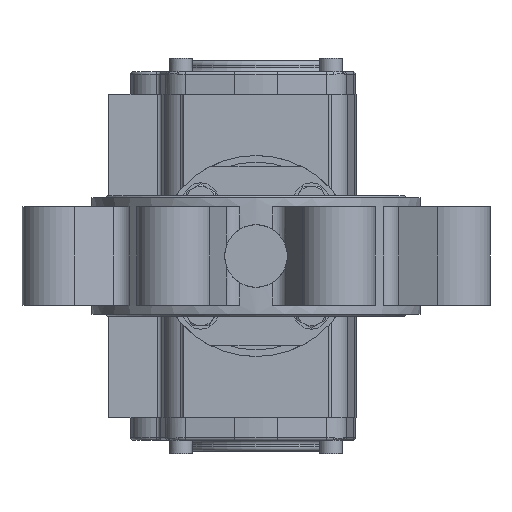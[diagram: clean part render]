
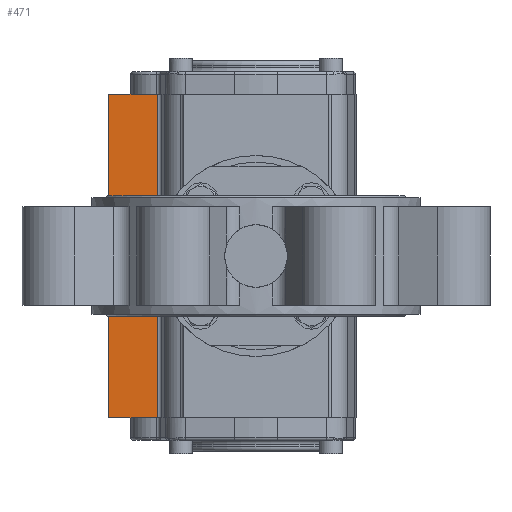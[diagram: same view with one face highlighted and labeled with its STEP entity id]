
A CAD part, front view. The second image highlights one B-rep face of the part: STEP entity #471.
In plain terms, the highlighted planar face has unit normal (0, -1, 0).
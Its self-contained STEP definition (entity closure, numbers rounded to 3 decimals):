
#471 = ADVANCED_FACE ( 'NONE', ( #4277 ), #26794, .F. ) ;
#473 = CARTESIAN_POINT ( 'NONE',  ( 72.45, -22., 66. ) ) ;
#788 = VERTEX_POINT ( 'NONE', #2328 ) ;
#2152 = EDGE_CURVE ( 'NONE', #788, #14917, #26124, .T. ) ;
#2328 = CARTESIAN_POINT ( 'NONE',  ( -72.45, -22., 66. ) ) ;
#3155 = VECTOR ( 'NONE', #6079, 1000. ) ;
#3376 = CARTESIAN_POINT ( 'NONE',  ( 72.45, -22., 66. ) ) ;
#4277 = FACE_OUTER_BOUND ( 'NONE', #4403, .T. ) ;
#4403 = EDGE_LOOP ( 'NONE', ( #26475, #16360, #6614, #22044 ) ) ;
#4834 = VERTEX_POINT ( 'NONE', #3376 ) ;
#5110 = EDGE_CURVE ( 'NONE', #14917, #13661, #7854, .T. ) ;
#6079 = DIRECTION ( 'NONE',  ( 0., 0., -1. ) ) ;
#6294 = DIRECTION ( 'NONE',  ( 0., 0., -1. ) ) ;
#6614 = ORIENTED_EDGE ( 'NONE', *, *, #12712, .F. ) ;
#7854 = LINE ( 'NONE', #14576, #23213 ) ;
#8497 = CARTESIAN_POINT ( 'NONE',  ( 72.45, -22., 66. ) ) ;
#11396 = DIRECTION ( 'NONE',  ( -1., 0., 0. ) ) ;
#12701 = CARTESIAN_POINT ( 'NONE',  ( 72.45, -22., 44.111 ) ) ;
#12712 = EDGE_CURVE ( 'NONE', #4834, #13661, #14919, .T. ) ;
#12855 = CARTESIAN_POINT ( 'NONE',  ( 72.45, -22., 66. ) ) ;
#13300 = DIRECTION ( 'NONE',  ( 0., 1., 0. ) ) ;
#13597 = LINE ( 'NONE', #473, #23933 ) ;
#13661 = VERTEX_POINT ( 'NONE', #12701 ) ;
#14576 = CARTESIAN_POINT ( 'NONE',  ( 72.45, -22., 44.111 ) ) ;
#14829 = CARTESIAN_POINT ( 'NONE',  ( -72.45, -22., 66. ) ) ;
#14917 = VERTEX_POINT ( 'NONE', #19282 ) ;
#14919 = LINE ( 'NONE', #12855, #24136 ) ;
#16360 = ORIENTED_EDGE ( 'NONE', *, *, #5110, .T. ) ;
#17072 = DIRECTION ( 'NONE',  ( 1., 0., 0. ) ) ;
#18006 = DIRECTION ( 'NONE',  ( 0., 0., 1. ) ) ;
#19282 = CARTESIAN_POINT ( 'NONE',  ( -72.45, -22., 44.111 ) ) ;
#20805 = AXIS2_PLACEMENT_3D ( 'NONE', #8497, #13300, #18006 ) ;
#21130 = EDGE_CURVE ( 'NONE', #4834, #788, #13597, .T. ) ;
#22044 = ORIENTED_EDGE ( 'NONE', *, *, #21130, .T. ) ;
#23213 = VECTOR ( 'NONE', #17072, 1000. ) ;
#23933 = VECTOR ( 'NONE', #11396, 1000. ) ;
#24136 = VECTOR ( 'NONE', #6294, 1000. ) ;
#26124 = LINE ( 'NONE', #14829, #3155 ) ;
#26475 = ORIENTED_EDGE ( 'NONE', *, *, #2152, .T. ) ;
#26794 = PLANE ( 'NONE',  #20805 ) ;
